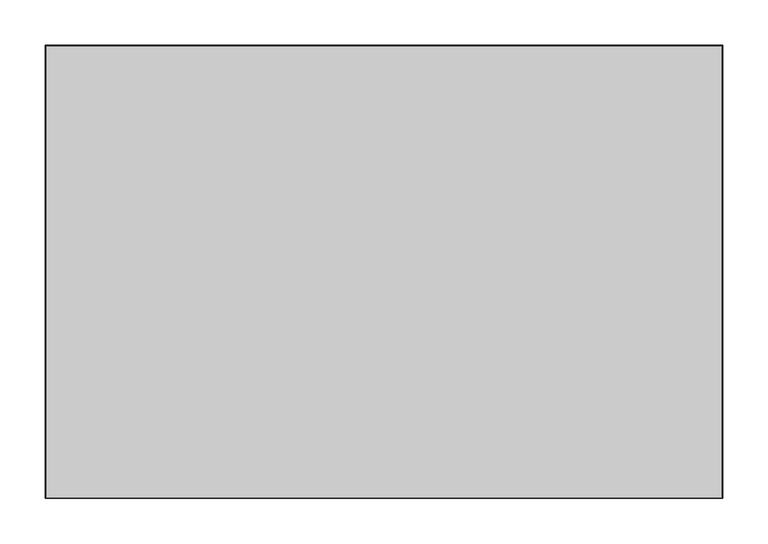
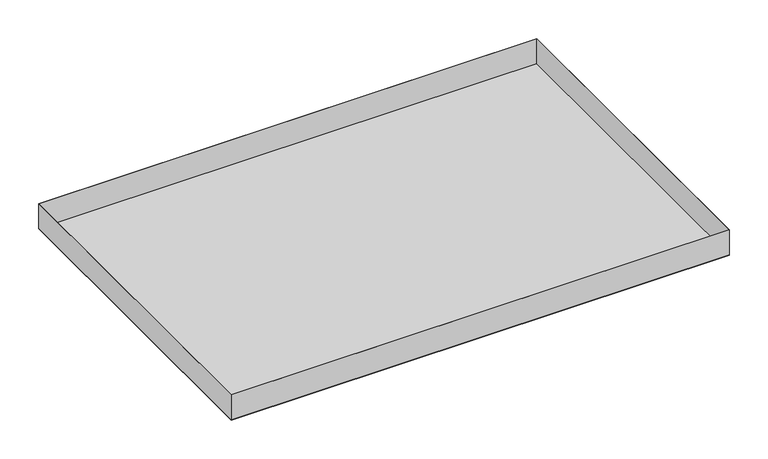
"""IFC4 building model written with IfcOpenShell, lengths in millimetres: proxy geometry, durlum_S-OM-100-RHOMBOS_panel : durlum_S-OM-100-RHOMBOS_panel_wall_corner."""

from ifc_helpers import new_model, si_unit, frame, origin, origin_with_axes, place, context, project, spatial, polyline, outline, extrude, source, transform, mapped, element, save


def generic_models_a7669d07(model_context):
    return source(origin(), model_context, "Body", "SweptSolid", [
        extrude(outline(polyline([(372.5, 249.5), (372.5, -249.5), (-372.5, -249.5), (-372.5, 249.5), (372.5, 249.5)]), holes=[polyline([(371.9, 248.9), (-371.9, 248.9), (-371.9, -248.9), (371.9, -248.9), (371.9, 248.9)])]), frame((0.0, 0.0, 0.6), z_axis=(0.0, 0.0, 1.0), x_axis=(1.0, 0.0, 0.0)), (0.0, 0.0, 1.0), 39.4),
        extrude(outline(polyline([(371.5, 248.5), (371.5, -248.5), (-371.5, -248.5), (-371.5, 248.5), (371.5, 248.5)])), frame((0.0, 0.0, 0.6), z_axis=(0.0, 0.0, 1.0), x_axis=(1.0, 0.0, 0.0)), (0.0, 0.0, 1.0), 0.6),
        extrude(outline(polyline([(372.5, 249.5), (372.5, -249.5), (-372.5, -249.5), (-372.5, 249.5), (372.5, 249.5)]), holes=[polyline([(371.5, 248.5), (-371.5, 248.5), (-371.5, -248.5), (371.5, -248.5), (371.5, 248.5)])]), origin_with_axes(), (0.0, 0.0, 1.0), 0.6),
        extrude(outline(polyline([(371.5, 248.5), (371.5, -248.5), (-371.5, -248.5), (-371.5, 248.5), (371.5, 248.5)])), origin_with_axes(), (0.0, 0.0, 1.0), 0.6),
    ])


if __name__ == "__main__":
    model = new_model("IFC4")
    model_context = context("Model", 3, world=origin())
    ifc_project = project(units=[si_unit("LENGTHUNIT", "METRE", prefix="MILLI")], contexts=[model_context])
    site = spatial("IfcSite", under=ifc_project)
    building = spatial("IfcBuilding", under=site)
    placement = place(None, origin())
    generic_models_shape = generic_models_a7669d07(model_context)
    element("IfcBuildingElementProxy", 1, Name="durlum_S-OM-100-RHOMBOS_panel : durlum_S-OM-100-RHOMBOS_panel_wall_corner", ObjectType="durlum_S-OM-100-RHOMBOS_panel : durlum_S-OM-100-RHOMBOS_panel_wall_corner", at=placement, inside=building, context=model_context, shape_type="MappedRepresentation", body=[
        mapped(generic_models_shape, transform((0.0, 0.0, 0.0), x_axis=(1.0, 0.0, 0.0), y_axis=(0.0, 1.0, 0.0), z_axis=(0.0, 0.0, 1.0))),
    ])
    save(model, "model.ifc")
